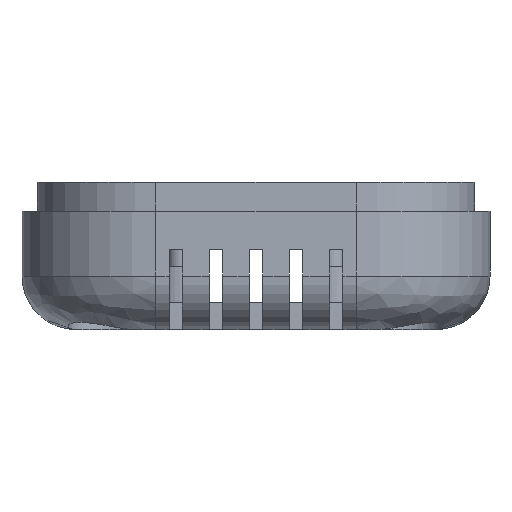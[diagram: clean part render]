
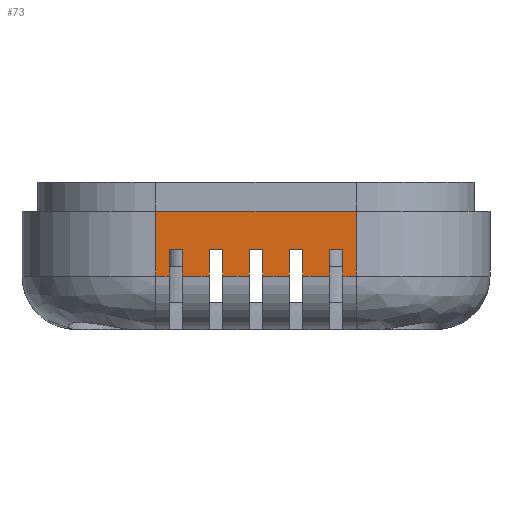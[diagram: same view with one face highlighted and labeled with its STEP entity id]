
A CAD part, front view. The second image highlights one B-rep face of the part: STEP entity #73.
In plain terms, the highlighted planar face has unit normal (0, -1, 0).
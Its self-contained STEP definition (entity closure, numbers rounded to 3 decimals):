
#73=ADVANCED_FACE('',(#217),#2552,.T.);
#217=FACE_OUTER_BOUND('',#367,.T.);
#367=EDGE_LOOP('',(#694,#695,#696,#697,#698,#699,#700,#701,#702,#703,#704,
#705,#706,#707,#708,#709,#710,#711,#712,#713,#714,#715,#716,#717));
#694=ORIENTED_EDGE('',*,*,#1468,.F.);
#695=ORIENTED_EDGE('',*,*,#1479,.F.);
#696=ORIENTED_EDGE('',*,*,#1478,.T.);
#697=ORIENTED_EDGE('',*,*,#1480,.T.);
#698=ORIENTED_EDGE('',*,*,#1492,.F.);
#699=ORIENTED_EDGE('',*,*,#1489,.T.);
#700=ORIENTED_EDGE('',*,*,#1491,.F.);
#701=ORIENTED_EDGE('',*,*,#1490,.T.);
#702=ORIENTED_EDGE('',*,*,#1488,.F.);
#703=ORIENTED_EDGE('',*,*,#1485,.T.);
#704=ORIENTED_EDGE('',*,*,#1487,.F.);
#705=ORIENTED_EDGE('',*,*,#1486,.T.);
#706=ORIENTED_EDGE('',*,*,#1484,.F.);
#707=ORIENTED_EDGE('',*,*,#1481,.T.);
#708=ORIENTED_EDGE('',*,*,#1483,.F.);
#709=ORIENTED_EDGE('',*,*,#1482,.T.);
#710=ORIENTED_EDGE('',*,*,#1496,.F.);
#711=ORIENTED_EDGE('',*,*,#1494,.F.);
#712=ORIENTED_EDGE('',*,*,#1495,.T.);
#713=ORIENTED_EDGE('',*,*,#1493,.F.);
#714=ORIENTED_EDGE('',*,*,#1473,.F.);
#715=ORIENTED_EDGE('',*,*,#1427,.F.);
#716=ORIENTED_EDGE('',*,*,#1423,.T.);
#717=ORIENTED_EDGE('',*,*,#1435,.F.);
#1423=EDGE_CURVE('',#2339,#2338,#1893,.T.);
#1427=EDGE_CURVE('',#2339,#2341,#1897,.T.);
#1435=EDGE_CURVE('',#2349,#2338,#1905,.T.);
#1468=EDGE_CURVE('',#2394,#2349,#1936,.T.);
#1473=EDGE_CURVE('',#2341,#2395,#1937,.T.);
#1478=EDGE_CURVE('',#2399,#2400,#1939,.T.);
#1479=EDGE_CURVE('',#2399,#2394,#1940,.T.);
#1480=EDGE_CURVE('',#2400,#2398,#1941,.T.);
#1481=EDGE_CURVE('',#2401,#2402,#1942,.T.);
#1482=EDGE_CURVE('',#2403,#2404,#1943,.T.);
#1483=EDGE_CURVE('',#2403,#2402,#1944,.T.);
#1484=EDGE_CURVE('',#2401,#2408,#1945,.T.);
#1485=EDGE_CURVE('',#2405,#2406,#1946,.T.);
#1486=EDGE_CURVE('',#2407,#2408,#1947,.T.);
#1487=EDGE_CURVE('',#2407,#2406,#1948,.T.);
#1488=EDGE_CURVE('',#2405,#2412,#1949,.T.);
#1489=EDGE_CURVE('',#2409,#2410,#1950,.T.);
#1490=EDGE_CURVE('',#2411,#2412,#1951,.T.);
#1491=EDGE_CURVE('',#2411,#2410,#1952,.T.);
#1492=EDGE_CURVE('',#2409,#2398,#1953,.T.);
#1493=EDGE_CURVE('',#2395,#2414,#1954,.T.);
#1494=EDGE_CURVE('',#2415,#2413,#1955,.T.);
#1495=EDGE_CURVE('',#2415,#2414,#1956,.T.);
#1496=EDGE_CURVE('',#2413,#2404,#1957,.T.);
#1893=B_SPLINE_CURVE_WITH_KNOTS('',1,(#4154,#4155),.UNSPECIFIED.,.F.,.F.,
(2,2),(0.,1.),.UNSPECIFIED.);
#1897=B_SPLINE_CURVE_WITH_KNOTS('',1,(#4162,#4163),.UNSPECIFIED.,.F.,.F.,
(2,2),(-4.,-2.),.UNSPECIFIED.);
#1905=B_SPLINE_CURVE_WITH_KNOTS('',1,(#4178,#4179),.UNSPECIFIED.,.F.,.F.,
(2,2),(2.,4.),.UNSPECIFIED.);
#1936=B_SPLINE_CURVE_WITH_KNOTS('',1,(#4246,#4247),.UNSPECIFIED.,.F.,.F.,
(2,2),(0.,1.),.UNSPECIFIED.);
#1937=B_SPLINE_CURVE_WITH_KNOTS('',1,(#4260,#4261),.UNSPECIFIED.,.F.,.F.,
(2,2),(2.,4.),.UNSPECIFIED.);
#1939=B_SPLINE_CURVE_WITH_KNOTS('',1,(#4272,#4273),.UNSPECIFIED.,.F.,.F.,
(2,2),(-7.5,7.5),.UNSPECIFIED.);
#1940=B_SPLINE_CURVE_WITH_KNOTS('',1,(#4274,#4275),.UNSPECIFIED.,.F.,.F.,
(2,2),(13.748,18.818),.UNSPECIFIED.);
#1941=B_SPLINE_CURVE_WITH_KNOTS('',1,(#4276,#4277),.UNSPECIFIED.,.F.,.F.,
(2,2),(13.748,18.818),.UNSPECIFIED.);
#1942=B_SPLINE_CURVE_WITH_KNOTS('',1,(#4278,#4279),.UNSPECIFIED.,.F.,.F.,
(2,2),(-6.5,-4.5),.UNSPECIFIED.);
#1943=B_SPLINE_CURVE_WITH_KNOTS('',1,(#4280,#4281),.UNSPECIFIED.,.F.,.F.,
(2,2),(4.5,6.5),.UNSPECIFIED.);
#1944=B_SPLINE_CURVE_WITH_KNOTS('',1,(#4282,#4283),.UNSPECIFIED.,.F.,.F.,
(2,2),(0.,1.),.UNSPECIFIED.);
#1945=B_SPLINE_CURVE_WITH_KNOTS('',1,(#4284,#4285),.UNSPECIFIED.,.F.,.F.,
(2,2),(8.,10.),.UNSPECIFIED.);
#1946=B_SPLINE_CURVE_WITH_KNOTS('',1,(#4286,#4287),.UNSPECIFIED.,.F.,.F.,
(2,2),(2.,4.),.UNSPECIFIED.);
#1947=B_SPLINE_CURVE_WITH_KNOTS('',1,(#4288,#4289),.UNSPECIFIED.,.F.,.F.,
(2,2),(-4.,-2.),.UNSPECIFIED.);
#1948=B_SPLINE_CURVE_WITH_KNOTS('',1,(#4290,#4291),.UNSPECIFIED.,.F.,.F.,
(2,2),(0.,1.),.UNSPECIFIED.);
#1949=B_SPLINE_CURVE_WITH_KNOTS('',1,(#4292,#4293),.UNSPECIFIED.,.F.,.F.,
(2,2),(11.,13.),.UNSPECIFIED.);
#1950=B_SPLINE_CURVE_WITH_KNOTS('',1,(#4294,#4295),.UNSPECIFIED.,.F.,.F.,
(2,2),(2.,4.),.UNSPECIFIED.);
#1951=B_SPLINE_CURVE_WITH_KNOTS('',1,(#4296,#4297),.UNSPECIFIED.,.F.,.F.,
(2,2),(-4.,-2.),.UNSPECIFIED.);
#1952=B_SPLINE_CURVE_WITH_KNOTS('',1,(#4298,#4299),.UNSPECIFIED.,.F.,.F.,
(2,2),(0.,1.),.UNSPECIFIED.);
#1953=B_SPLINE_CURVE_WITH_KNOTS('',1,(#4300,#4301),.UNSPECIFIED.,.F.,.F.,
(2,2),(14.,15.),.UNSPECIFIED.);
#1954=B_SPLINE_CURVE_WITH_KNOTS('',1,(#4302,#4303),.UNSPECIFIED.,.F.,.F.,
(2,2),(2.,4.),.UNSPECIFIED.);
#1955=B_SPLINE_CURVE_WITH_KNOTS('',1,(#4304,#4305),.UNSPECIFIED.,.F.,.F.,
(2,2),(-4.,-2.),.UNSPECIFIED.);
#1956=B_SPLINE_CURVE_WITH_KNOTS('',1,(#4306,#4307),.UNSPECIFIED.,.F.,.F.,
(2,2),(0.,1.),.UNSPECIFIED.);
#1957=B_SPLINE_CURVE_WITH_KNOTS('',1,(#4308,#4309),.UNSPECIFIED.,.F.,.F.,
(2,2),(5.,7.),.UNSPECIFIED.);
#2338=VERTEX_POINT('',#3756);
#2339=VERTEX_POINT('',#3757);
#2341=VERTEX_POINT('',#3759);
#2349=VERTEX_POINT('',#3767);
#2394=VERTEX_POINT('',#3812);
#2395=VERTEX_POINT('',#3813);
#2398=VERTEX_POINT('',#3816);
#2399=VERTEX_POINT('',#3817);
#2400=VERTEX_POINT('',#3818);
#2401=VERTEX_POINT('',#3819);
#2402=VERTEX_POINT('',#3820);
#2403=VERTEX_POINT('',#3821);
#2404=VERTEX_POINT('',#3822);
#2405=VERTEX_POINT('',#3823);
#2406=VERTEX_POINT('',#3824);
#2407=VERTEX_POINT('',#3825);
#2408=VERTEX_POINT('',#3826);
#2409=VERTEX_POINT('',#3827);
#2410=VERTEX_POINT('',#3828);
#2411=VERTEX_POINT('',#3829);
#2412=VERTEX_POINT('',#3830);
#2413=VERTEX_POINT('',#3831);
#2414=VERTEX_POINT('',#3832);
#2415=VERTEX_POINT('',#3833);
#2552=PLANE('',#2797);
#2797=AXIS2_PLACEMENT_3D('',#3541,#3054,$);
#3054=DIRECTION('',(0.,-1.,0.));
#3541=CARTESIAN_POINT('',(-5.,-10.,-8.15));
#3756=CARTESIAN_POINT('',(-6.,-10.,-11.));
#3757=CARTESIAN_POINT('',(-7.,-10.,-11.));
#3759=CARTESIAN_POINT('',(-7.,-10.,-13.));
#3767=CARTESIAN_POINT('',(-6.,-10.,-13.));
#3812=CARTESIAN_POINT('',(-5.,-10.,-13.));
#3813=CARTESIAN_POINT('',(-9.,-10.,-13.));
#3816=CARTESIAN_POINT('',(-20.,-10.,-13.));
#3817=CARTESIAN_POINT('',(-5.,-10.,-8.15));
#3818=CARTESIAN_POINT('',(-20.,-10.,-8.15));
#3819=CARTESIAN_POINT('',(-13.,-10.,-13.));
#3820=CARTESIAN_POINT('',(-13.,-10.,-11.));
#3821=CARTESIAN_POINT('',(-12.,-10.,-11.));
#3822=CARTESIAN_POINT('',(-12.,-10.,-13.));
#3823=CARTESIAN_POINT('',(-16.,-10.,-13.));
#3824=CARTESIAN_POINT('',(-16.,-10.,-11.));
#3825=CARTESIAN_POINT('',(-15.,-10.,-11.));
#3826=CARTESIAN_POINT('',(-15.,-10.,-13.));
#3827=CARTESIAN_POINT('',(-19.,-10.,-13.));
#3828=CARTESIAN_POINT('',(-19.,-10.,-11.));
#3829=CARTESIAN_POINT('',(-18.,-10.,-11.));
#3830=CARTESIAN_POINT('',(-18.,-10.,-13.));
#3831=CARTESIAN_POINT('',(-10.,-10.,-13.));
#3832=CARTESIAN_POINT('',(-9.,-10.,-11.));
#3833=CARTESIAN_POINT('',(-10.,-10.,-11.));
#4154=CARTESIAN_POINT('',(-7.,-10.,-11.));
#4155=CARTESIAN_POINT('',(-6.,-10.,-11.));
#4162=CARTESIAN_POINT('',(-7.,-10.,-11.));
#4163=CARTESIAN_POINT('',(-7.,-10.,-13.));
#4178=CARTESIAN_POINT('',(-6.,-10.,-13.));
#4179=CARTESIAN_POINT('',(-6.,-10.,-11.));
#4246=CARTESIAN_POINT('',(-5.,-10.,-13.));
#4247=CARTESIAN_POINT('',(-6.,-10.,-13.));
#4260=CARTESIAN_POINT('',(-7.,-10.,-13.));
#4261=CARTESIAN_POINT('',(-9.,-10.,-13.));
#4272=CARTESIAN_POINT('',(-5.,-10.,-8.15));
#4273=CARTESIAN_POINT('',(-20.,-10.,-8.15));
#4274=CARTESIAN_POINT('',(-5.,-10.,-8.15));
#4275=CARTESIAN_POINT('',(-5.,-10.,-13.));
#4276=CARTESIAN_POINT('',(-20.,-10.,-8.15));
#4277=CARTESIAN_POINT('',(-20.,-10.,-13.));
#4278=CARTESIAN_POINT('',(-13.,-10.,-13.));
#4279=CARTESIAN_POINT('',(-13.,-10.,-11.));
#4280=CARTESIAN_POINT('',(-12.,-10.,-11.));
#4281=CARTESIAN_POINT('',(-12.,-10.,-13.));
#4282=CARTESIAN_POINT('',(-12.,-10.,-11.));
#4283=CARTESIAN_POINT('',(-13.,-10.,-11.));
#4284=CARTESIAN_POINT('',(-13.,-10.,-13.));
#4285=CARTESIAN_POINT('',(-15.,-10.,-13.));
#4286=CARTESIAN_POINT('',(-16.,-10.,-13.));
#4287=CARTESIAN_POINT('',(-16.,-10.,-11.));
#4288=CARTESIAN_POINT('',(-15.,-10.,-11.));
#4289=CARTESIAN_POINT('',(-15.,-10.,-13.));
#4290=CARTESIAN_POINT('',(-15.,-10.,-11.));
#4291=CARTESIAN_POINT('',(-16.,-10.,-11.));
#4292=CARTESIAN_POINT('',(-16.,-10.,-13.));
#4293=CARTESIAN_POINT('',(-18.,-10.,-13.));
#4294=CARTESIAN_POINT('',(-19.,-10.,-13.));
#4295=CARTESIAN_POINT('',(-19.,-10.,-11.));
#4296=CARTESIAN_POINT('',(-18.,-10.,-11.));
#4297=CARTESIAN_POINT('',(-18.,-10.,-13.));
#4298=CARTESIAN_POINT('',(-18.,-10.,-11.));
#4299=CARTESIAN_POINT('',(-19.,-10.,-11.));
#4300=CARTESIAN_POINT('',(-19.,-10.,-13.));
#4301=CARTESIAN_POINT('',(-20.,-10.,-13.));
#4302=CARTESIAN_POINT('',(-9.,-10.,-13.));
#4303=CARTESIAN_POINT('',(-9.,-10.,-11.));
#4304=CARTESIAN_POINT('',(-10.,-10.,-11.));
#4305=CARTESIAN_POINT('',(-10.,-10.,-13.));
#4306=CARTESIAN_POINT('',(-10.,-10.,-11.));
#4307=CARTESIAN_POINT('',(-9.,-10.,-11.));
#4308=CARTESIAN_POINT('',(-10.,-10.,-13.));
#4309=CARTESIAN_POINT('',(-12.,-10.,-13.));
